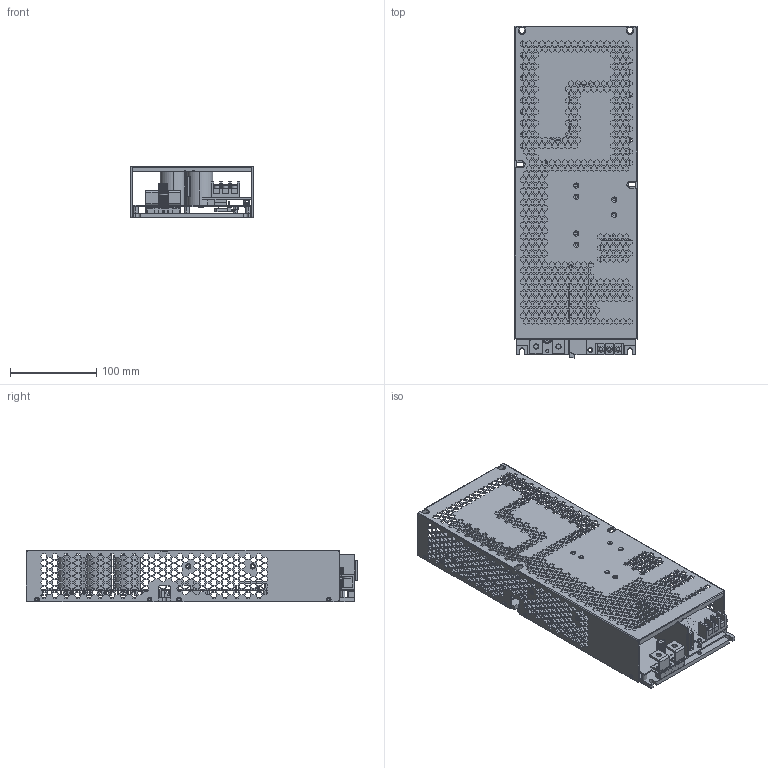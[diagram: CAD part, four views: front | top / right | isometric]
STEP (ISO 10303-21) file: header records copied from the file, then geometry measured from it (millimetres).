
FILE_DESCRIPTION(('Creo Elements/Direct Modeling STEP Export'),'2;1');
FILE_NAME('php-3500 3d.stp','2019-05-06T14:48:18',(''),(''),'PTC Creo Elements/Direct Modeling STEP processor for AP214 (Solid Model)','PTC Creo Elements/Direct Modeling 19.0 09-May-2014 (C) Parametric Technology GmbH','');
FILE_SCHEMA(('AUTOMOTIVE_DESIGN { 1 0 10303 214 1 1 1 1 }'));
Length unit declared in the file: millimetre
Products named in the file (1458): 帽套; P4-17010_ASM.ASM; HS-204_STP.ASM; HS-204.stp; CYLINDER_PRT.PRT; 849232104_ASM.ASM.12; 879750992_ASM.ASM; 1DL5-PQ-4040-12P-VT_ASM.PRT; C1002_ASM.ASM; PCB_ASM.ASM; PQ4040_STEP.ASM; PQ40.stp.1; a1; a3; 零件; AL-6; BOSS.7.1.1.2.1; BOSS.7.1.1.1.1.1; 鋁板; 上蓋.1.5.2; 上蓋.1.5.1.1; p3.1.1; p3.1; mylar; 708095120.ASM.5; 708095280.ASM; CYLINDER-60708.PRT; 669775256.ASM; 708095600.ASM; 708095760.ASM; 708095920.ASM; 708096080.ASM; 708096400.ASM; RD-9JAN-42-1.prt; RD-9JAN-42-1.STEP; TB1.ASM; PCBB; EXTRUDED-63651.PRT; 708096240.ASM; PCB-D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
Assembly tree (3325 placements, depth 9):
  零件
    a3
      a1
      PQ40.stp.1
        PQ4040_STEP.ASM
          PCB_ASM.ASM
            C1002_ASM.ASM
              1DL5-PQ-4040-12P-VT_ASM.PRT  x2
              879750992_ASM.ASM
              849232104_ASM.ASM.12  x12
                CYLINDER_PRT.PRT
      HS-204.stp
        HS-204_STP.ASM
          P4-17010_ASM.ASM
      帽套
  鋁板
    BOSS.7.1.1.1.1.1  x7
    BOSS.7.1.1.2.1  x2
    AL-6
  上蓋.1.5.2
    上蓋.1.5.2
  上蓋.1.5.1.1
    上蓋.1.5.2
  p3.1.1
    p3.1.1
Bounding box: 141.4 x 384.13 x 60 mm (x, y, z)
Volume: 687888.6 mm3; surface area: 603790 mm2
Topology: 160 solids, 160 shells, 15294 faces, 44745 edges, 29761 vertices
Faces by surface type: plane 14652, cylinder 438, cone 150, sphere 32, torus 22
Entity records: 303937 total; most frequent: CARTESIAN_POINT 48645, ORIENTED_EDGE 45544, DIRECTION 44973, EDGE_CURVE 22772, VECTOR 21959, LINE 21959, VERTEX_POINT 15153, AXIS2_PLACEMENT_3D 11507
